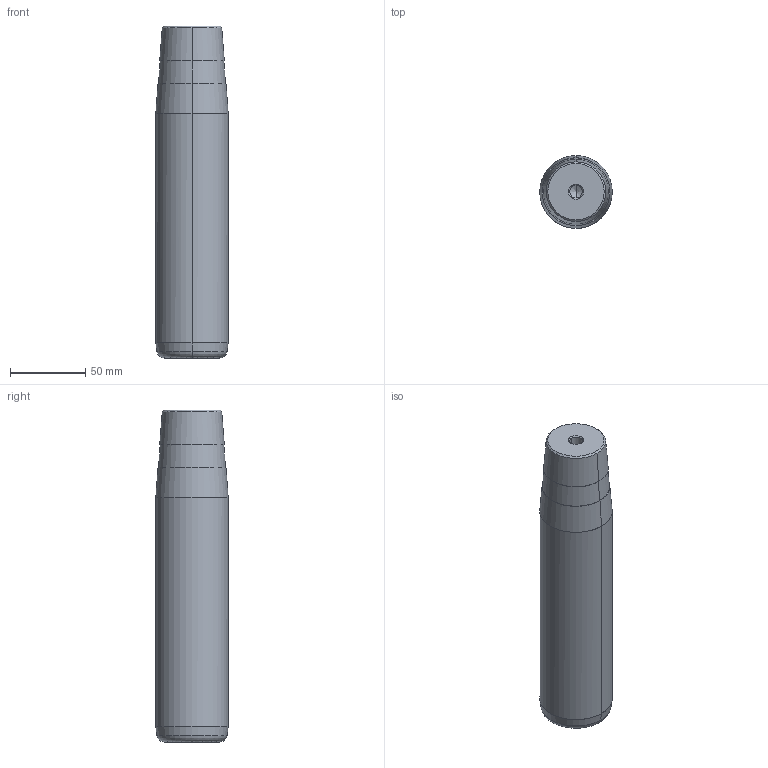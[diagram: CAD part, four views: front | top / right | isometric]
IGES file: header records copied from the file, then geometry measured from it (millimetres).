
Start section: START RECORD GO HERE.
Global section: file name: 722-48x180x220.igs; native system: DASSAULT SYSTEMES CATIA V5 R20 - www.3ds.com; preprocessor: CATIA Version 5 Release 20 ; author: Utente; organization: NB04-ASUS; date: 20210108.160414; units: millimetre
Bounding box: 48 x 48 x 220 mm (x, y, z)
Surface area: 36310 mm2 (no closed solid volume)
Topology: 0 solids, 0 shells, 32 faces, 192 edges, 188 vertices
Faces by surface type: revolution 30, plane 2
